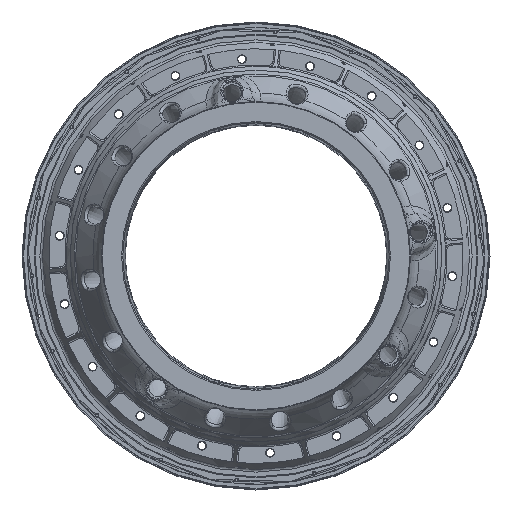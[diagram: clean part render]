
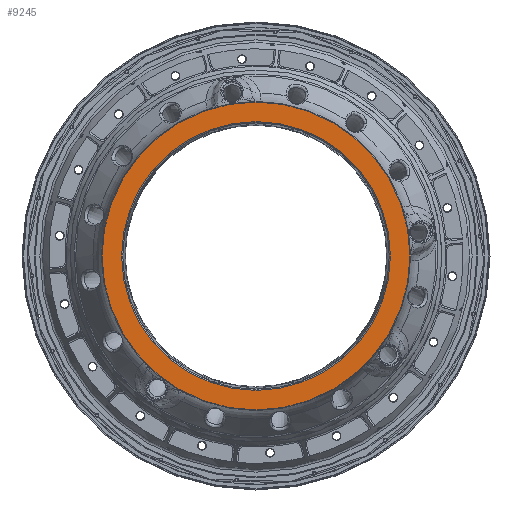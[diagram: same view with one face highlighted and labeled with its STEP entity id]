
A CAD part, left-side view. The second image highlights one B-rep face of the part: STEP entity #9245.
In plain terms, the highlighted planar face has unit normal (-1, 0, 0).
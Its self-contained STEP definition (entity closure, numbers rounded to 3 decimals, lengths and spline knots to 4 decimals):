
#8632=PLANE('',#33336);
#9245=ADVANCED_FACE('',(#11627,#11628),#8632,.T.);
#11627=FACE_BOUND('',#12536,.T.);
#11628=FACE_BOUND('',#12537,.T.);
#12536=EDGE_LOOP('',(#16079));
#12537=EDGE_LOOP('',(#16080));
#16079=ORIENTED_EDGE('',*,*,#27269,.T.);
#16080=ORIENTED_EDGE('',*,*,#27270,.T.);
#24090=VERTEX_POINT('',#46967);
#24091=VERTEX_POINT('',#46969);
#27269=EDGE_CURVE('',#24090,#24090,#31405,.T.);
#27270=EDGE_CURVE('',#24091,#24091,#31406,.T.);
#31405=CIRCLE('',#33334,5.264);
#31406=CIRCLE('',#33335,6.029);
#33334=AXIS2_PLACEMENT_3D('',#46966,#37053,#37054);
#33335=AXIS2_PLACEMENT_3D('',#46968,#37055,#37056);
#33336=AXIS2_PLACEMENT_3D('',#46970,#37057,#37058);
#37053=DIRECTION('',(1.,0.,0.));
#37054=DIRECTION('',(0.,0.,1.));
#37055=DIRECTION('',(-1.,0.,0.));
#37056=DIRECTION('',(0.,0.,1.));
#37057=DIRECTION('',(-1.,0.,0.));
#37058=DIRECTION('',(0.,0.,1.));
#46966=CARTESIAN_POINT('',(231.124,0.,0.));
#46967=CARTESIAN_POINT('',(231.124,0.,5.264));
#46968=CARTESIAN_POINT('',(231.124,0.,0.));
#46969=CARTESIAN_POINT('',(231.124,0.,6.029));
#46970=CARTESIAN_POINT('',(231.124,0.,5.219));
